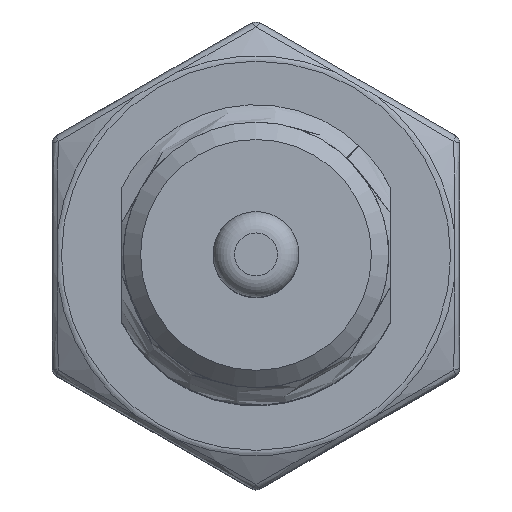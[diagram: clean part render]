
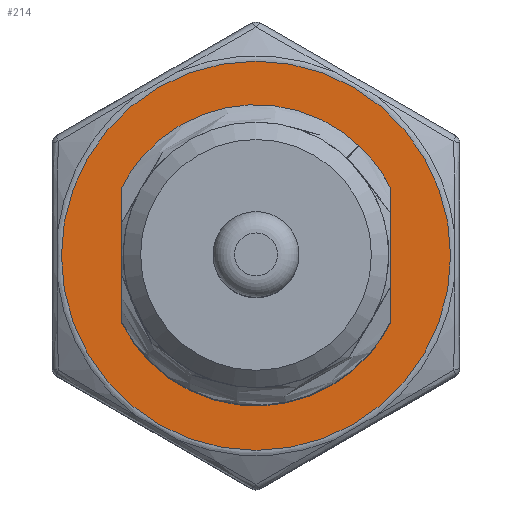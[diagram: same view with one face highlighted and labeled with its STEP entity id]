
A CAD part, top view. The second image highlights one B-rep face of the part: STEP entity #214.
In plain terms, the highlighted planar face has unit normal (0, 0, 1).
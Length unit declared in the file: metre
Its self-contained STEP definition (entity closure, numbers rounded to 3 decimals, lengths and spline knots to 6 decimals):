
#214=ADVANCED_FACE('',(#446,#447),#448,.T.);
#446=FACE_BOUND('',#1381,.T.);
#447=FACE_OUTER_BOUND('',#1382,.T.);
#448=PLANE('',#1383);
#1381=EDGE_LOOP('',(#6583));
#1382=EDGE_LOOP('',(#6584));
#1383=AXIS2_PLACEMENT_3D('',#6585,#6586,#6587);
#6583=ORIENTED_EDGE('',*,*,#7858,.T.);
#6584=ORIENTED_EDGE('',*,*,#7904,.T.);
#6585=CARTESIAN_POINT('',(0.005485,-0.0095,0.006));
#6586=DIRECTION('',(0.0,0.0,1.0));
#6587=DIRECTION('',(1.0,0.0,0.0));
#7858=EDGE_CURVE('',#8346,#8346,#8347,.T.);
#7904=EDGE_CURVE('',#8420,#8420,#8421,.T.);
#8346=VERTEX_POINT('',#9382);
#8347=CIRCLE('',#9383,0.00625);
#8420=VERTEX_POINT('',#9543);
#8421=CIRCLE('',#9544,0.009066);
#9382=CARTESIAN_POINT('',(0.,0.00625,0.006));
#9383=AXIS2_PLACEMENT_3D('',#15007,#15008,#15009);
#9543=CARTESIAN_POINT('',(0.009066,0.,0.006));
#9544=AXIS2_PLACEMENT_3D('',#15113,#15114,#15115);
#15007=CARTESIAN_POINT('',(0.,0.,0.006));
#15008=DIRECTION('',(0.0,0.,-1.0));
#15009=DIRECTION('',(0.0,1.0,0.));
#15113=CARTESIAN_POINT('',(0.,0.,0.006));
#15114=DIRECTION('',(0.0,0.0,1.0));
#15115=DIRECTION('',(1.0,0.0,0.0));
